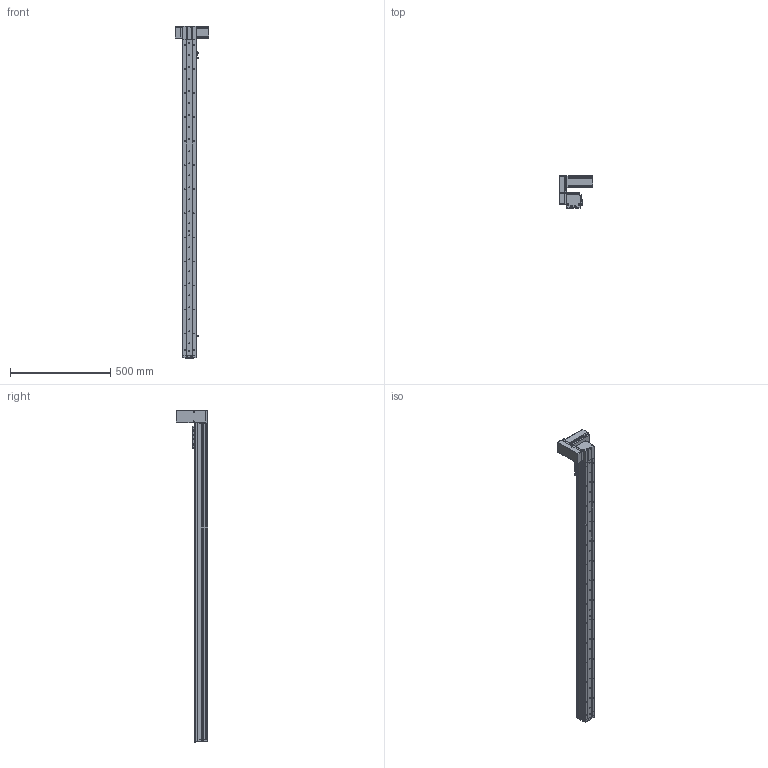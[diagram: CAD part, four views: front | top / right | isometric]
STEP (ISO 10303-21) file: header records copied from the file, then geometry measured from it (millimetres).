
FILE_DESCRIPTION (( 'STEP AP214' ), '1' );
FILE_NAME ('KSD68BS-S1400-MRU-CR.STEP', '2019-08-29T00:55:20', ( '微软用户' ), ( '微软中国' ), 'SwSTEP 2.0', 'SolidWorks 2014', '' );
FILE_SCHEMA (( 'AUTOMOTIVE_DESIGN' ));
Length unit declared in the file: millimetre
Products named in the file (14): 悵誘欶奻狟殏; 68宽马达安装板连板上折同步带; 感应片68宽全封闭; U倰嫖萇EEㄜSX672; KSD68BS 1400行程盖板全封闭; 台达ECMA－C20604AS伺服电机（400W); KSD68BS 1400行程底板全封闭; KSD68BS-S1400-MRU-CR; 68遵裔啣揤啣1; 68宽单导轨全封闭丝杆传动安装板1防护罩; KSD68BS 1400行程侧板全封闭; 68宽单导轨全封闭同步带端板; 68单导轨全封闭同步带电机座右; 68单导轨全封闭同步带安装板
Assembly tree (17 placements, depth 2):
  KSD68BS-S1400-MRU-CR
    KSD68BS 1400行程底板全封闭
    台达ECMA－C20604AS伺服电机（400W)
    U倰嫖萇EEㄜSX672  x3
    感应片68宽全封闭
    68宽马达安装板连板上折同步带
    悵誘欶奻狟殏
    68单导轨全封闭同步带安装板
    68单导轨全封闭同步带电机座右
    68宽单导轨全封闭同步带端板
    KSD68BS 1400行程侧板全封闭  x2
    68宽单导轨全封闭丝杆传动安装板1防护罩
    68遵裔啣揤啣1  x2
    KSD68BS 1400行程盖板全封闭
Bounding box: 167.2 x 159.5 x 1658.1 mm (x, y, z)
Volume: 3075835.1 mm3; surface area: 1226562.7 mm2
Topology: 18 solids, 18 shells, 1588 faces, 4561 edges, 2907 vertices
Faces by surface type: cylinder 773, plane 631, cone 184
Entity records: 51410 total; most frequent: CARTESIAN_POINT 8889, DIRECTION 7669, ORIENTED_EDGE 7334, EDGE_CURVE 3667, AXIS2_PLACEMENT_3D 2789, VERTEX_POINT 2405, LINE 2091, VECTOR 2091
